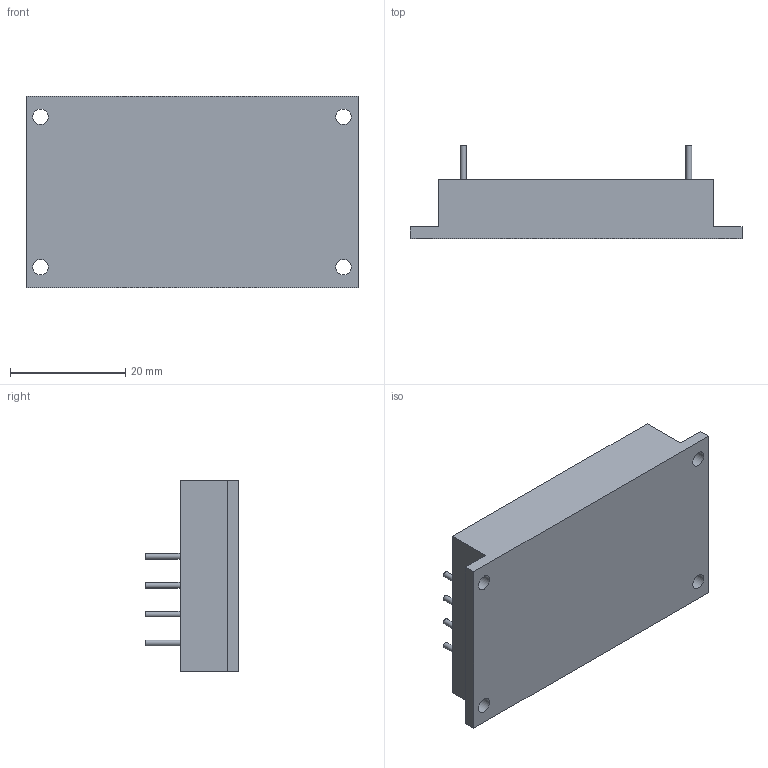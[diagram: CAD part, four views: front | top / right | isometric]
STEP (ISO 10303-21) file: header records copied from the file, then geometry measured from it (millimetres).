
FILE_DESCRIPTION(('STEP AP203'), '1');
FILE_NAME('ﾌﾄﾌ25-2ﾓﾏ ﾈ2', '', ('UNSPECIFIED'), ('UNSPECIFIED'), 'C3D Converter', 'C3D Toolkit', '');
FILE_SCHEMA(('CONFIG_CONTROL_DESIGN'));
Length unit declared in the file: millimetre
Products named in the file (1): МДМ7,5(10)-1У
Bounding box: 57.5 x 16.15 x 33.2 mm (x, y, z)
Volume: 16716.6 mm3; surface area: 5672.3 mm2
Topology: 1 solids, 1 shells, 30 faces, 60 edges, 40 vertices
Faces by surface type: plane 18, cylinder 12
Full cylindrical faces by diameter (mm): 1 x8, 2.7 x4
Entity records: 1019 total; most frequent: DIRECTION 134, CARTESIAN_POINT 119, ORIENTED_EDGE 96, EDGE_LOOP 58, AXIS2_PLACEMENT_3D 55, EDGE_CURVE 48, VERTEX_POINT 40, FACE_BOUND 34
